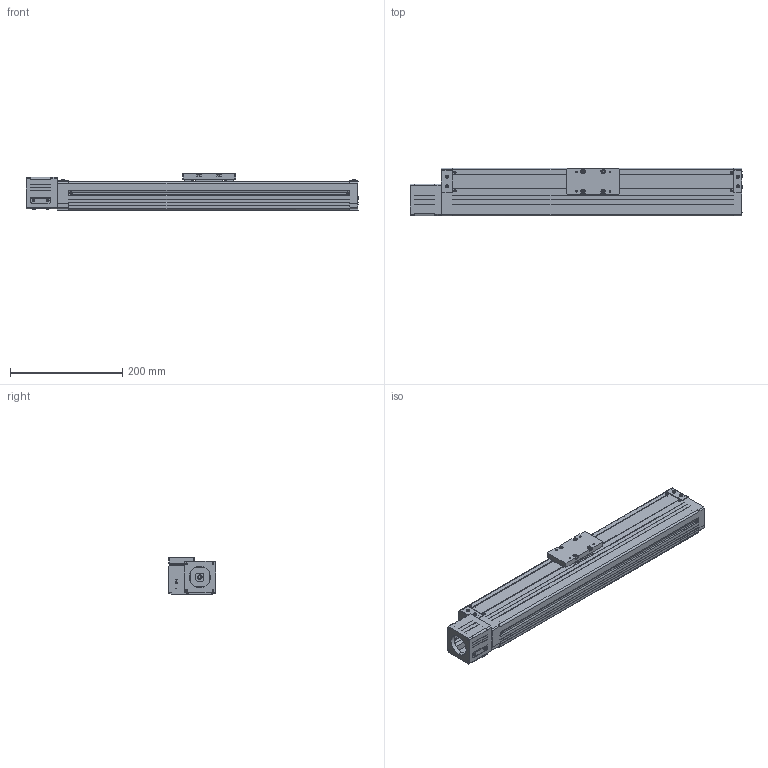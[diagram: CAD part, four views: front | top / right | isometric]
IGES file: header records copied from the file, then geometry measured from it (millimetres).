
Global section: file name: No Iges File Name specified; native system: AutoDesk Inventor R10; preprocessor: AutoDesk Inventor Iges Exporter R10; author: No Author specified; organization: No Organization specified; date: 20110701.172257; units: millimetre
Bounding box: 591 x 85 x 65 mm (x, y, z)
Surface area: 375517.4 mm2 (no closed solid volume)
Topology: 0 solids, 0 shells, 954 faces, 5922 edges, 5902 vertices
Faces by surface type: bspline 954
